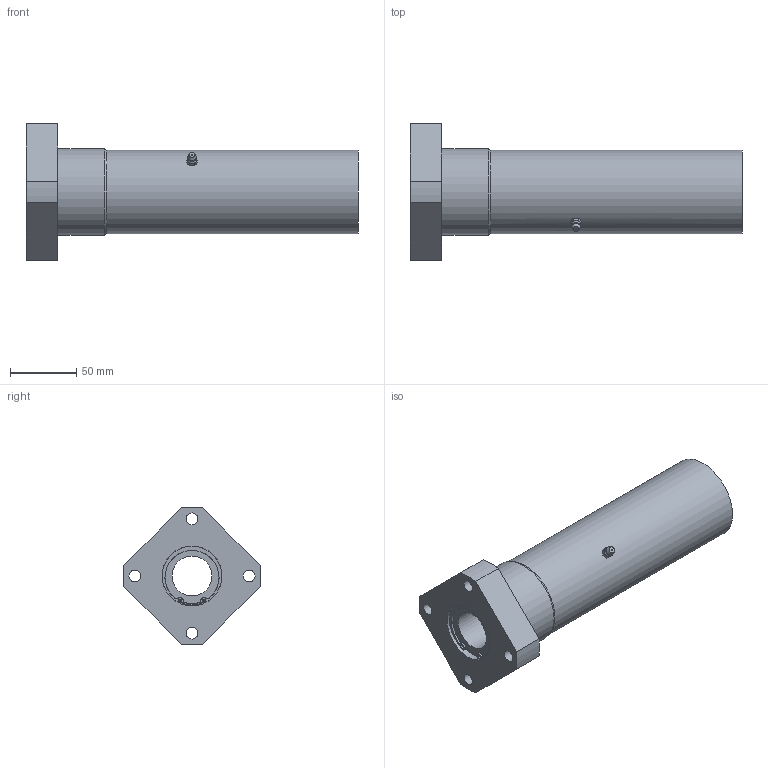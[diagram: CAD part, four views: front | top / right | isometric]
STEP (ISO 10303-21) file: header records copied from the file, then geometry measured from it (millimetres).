
FILE_DESCRIPTION((''),'2;1');
FILE_NAME('D:\製品 (図面)\カタログ用3D\リニアベアリング関連(改)\STEP形式\LFWL\LFWL30A.stp','2010-01-22T16:34:54',('Tsuchiya'),(''),'Autodesk Inventor 10','Autodesk Inventor 10','');
FILE_SCHEMA(('AUTOMOTIVE_DESIGN { 1 0 10303 214 1 1 1 1 }'));
Length unit declared in the file: millimetre
Products named in the file (1): LFWL30A
Bounding box: 250 x 103.86 x 103.86 mm (x, y, z)
Volume: 685070.7 mm3; surface area: 99013.2 mm2
Topology: 1 solids, 7 shells, 114 faces, 286 edges, 177 vertices
Faces by surface type: bspline 36, plane 35, cylinder 31, cone 8, sphere 2, torus 2
Full cylindrical faces by diameter (mm): 2.5 x2, 9 x4, 30 x2, 41.7 x2, 43 x2, 45 x8, 63 x1, 65 x1
Entity records: 3503 total; most frequent: CARTESIAN_POINT 999, DIRECTION 534, ORIENTED_EDGE 452, AXIS2_PLACEMENT_3D 241, EDGE_CURVE 226, EDGE_LOOP 188, VERTEX_POINT 158, CIRCLE 158
